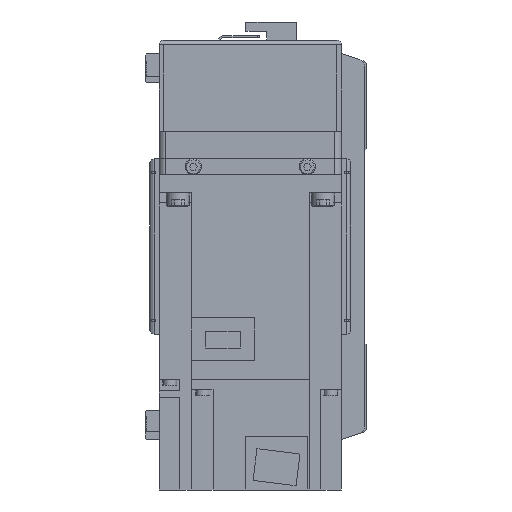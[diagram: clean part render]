
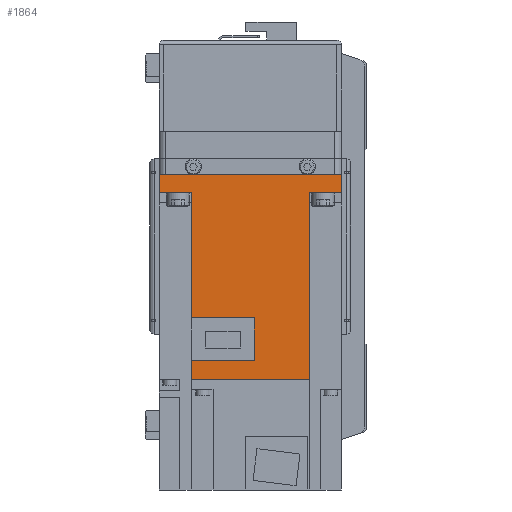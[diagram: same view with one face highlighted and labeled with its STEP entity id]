
A CAD part, left-side view. The second image highlights one B-rep face of the part: STEP entity #1864.
In plain terms, the highlighted planar face has unit normal (-1, 0, 0) as drawn and (1, 0, 0) by its records, which use the part's own axes.
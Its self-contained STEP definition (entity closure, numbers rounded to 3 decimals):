
#1864 = ADVANCED_FACE( '', ( #4446 ), #4447, .F. );
#4446 = FACE_OUTER_BOUND( '', #7940, .T. );
#4447 = PLANE( '', #7941 );
#7940 = EDGE_LOOP( '', ( #13272, #13273, #13274, #13275, #13276, #13277, #13278, #13279, #13280, #13281, #13282, #13283 ) );
#7941 = AXIS2_PLACEMENT_3D( '', #13284, #13285, #13286 );
#13272 = ORIENTED_EDGE( '', *, *, #19906, .F. );
#13273 = ORIENTED_EDGE( '', *, *, #20722, .F. );
#13274 = ORIENTED_EDGE( '', *, *, #21131, .F. );
#13275 = ORIENTED_EDGE( '', *, *, #21433, .T. );
#13276 = ORIENTED_EDGE( '', *, *, #20825, .F. );
#13277 = ORIENTED_EDGE( '', *, *, #21434, .T. );
#13278 = ORIENTED_EDGE( '', *, *, #21219, .T. );
#13279 = ORIENTED_EDGE( '', *, *, #21435, .F. );
#13280 = ORIENTED_EDGE( '', *, *, #21436, .F. );
#13281 = ORIENTED_EDGE( '', *, *, #20724, .F. );
#13282 = ORIENTED_EDGE( '', *, *, #21437, .F. );
#13283 = ORIENTED_EDGE( '', *, *, #21438, .F. );
#13284 = CARTESIAN_POINT( '', ( 40., 89.8, 40. ) );
#13285 = DIRECTION( '', ( -1., 0., 0. ) );
#13286 = DIRECTION( '', ( 0., 0., 1. ) );
#19906 = EDGE_CURVE( '', #23681, #23683, #23684, .T. );
#20722 = EDGE_CURVE( '', #25118, #23681, #25120, .T. );
#20724 = EDGE_CURVE( '', #25121, #25123, #25124, .T. );
#20825 = EDGE_CURVE( '', #25290, #25292, #25293, .T. );
#21131 = EDGE_CURVE( '', #25783, #25118, #25785, .T. );
#21219 = EDGE_CURVE( '', #25923, #25921, #25924, .T. );
#21433 = EDGE_CURVE( '', #25783, #25292, #26256, .T. );
#21434 = EDGE_CURVE( '', #25290, #25923, #26257, .T. );
#21435 = EDGE_CURVE( '', #26258, #25921, #26259, .T. );
#21436 = EDGE_CURVE( '', #25123, #26258, #26260, .T. );
#21437 = EDGE_CURVE( '', #26261, #25121, #26262, .T. );
#21438 = EDGE_CURVE( '', #23683, #26261, #26263, .T. );
#23681 = VERTEX_POINT( '', #29318 );
#23683 = VERTEX_POINT( '', #29321 );
#23684 = LINE( '', #29322, #29323 );
#25118 = VERTEX_POINT( '', #31419 );
#25120 = LINE( '', #31422, #31423 );
#25121 = VERTEX_POINT( '', #31424 );
#25123 = VERTEX_POINT( '', #31427 );
#25124 = LINE( '', #31428, #31429 );
#25290 = VERTEX_POINT( '', #31644 );
#25292 = VERTEX_POINT( '', #31647 );
#25293 = LINE( '', #31648, #31649 );
#25783 = VERTEX_POINT( '', #32396 );
#25785 = LINE( '', #32399, #32400 );
#25921 = VERTEX_POINT( '', #32611 );
#25923 = VERTEX_POINT( '', #32614 );
#25924 = LINE( '', #32615, #32616 );
#26256 = LINE( '', #33105, #33106 );
#26257 = LINE( '', #33107, #33108 );
#26258 = VERTEX_POINT( '', #33109 );
#26259 = LINE( '', #33110, #33111 );
#26260 = LINE( '', #33112, #33113 );
#26261 = VERTEX_POINT( '', #33114 );
#26262 = LINE( '', #33115, #33116 );
#26263 = LINE( '', #33117, #33118 );
#29318 = CARTESIAN_POINT( '', ( 40., 81.4, -25.95 ) );
#29321 = CARTESIAN_POINT( '', ( 40., 81.4, 1.8 ) );
#29322 = CARTESIAN_POINT( '', ( 40., 81.4, -26. ) );
#29323 = VECTOR( '', #37165, 1000. );
#31419 = CARTESIAN_POINT( '', ( 40., 89.8, -25.95 ) );
#31422 = CARTESIAN_POINT( '', ( 40., 158., -25.95 ) );
#31423 = VECTOR( '', #38290, 1000. );
#31424 = CARTESIAN_POINT( '', ( 40., 62.8, -25.95 ) );
#31427 = CARTESIAN_POINT( '', ( 40., 8., -25.95 ) );
#31428 = CARTESIAN_POINT( '', ( 40., 158., -25.95 ) );
#31429 = VECTOR( '', #38292, 1000. );
#31644 = CARTESIAN_POINT( '', ( 40., 8., 40. ) );
#31647 = CARTESIAN_POINT( '', ( 40., 8., 25.95 ) );
#31648 = CARTESIAN_POINT( '', ( 40., 8., 40. ) );
#31649 = VECTOR( '', #38439, 1000. );
#32396 = CARTESIAN_POINT( '', ( 40., 89.8, 25.95 ) );
#32399 = CARTESIAN_POINT( '', ( 40., 89.8, 40. ) );
#32400 = VECTOR( '', #38824, 1000. );
#32611 = CARTESIAN_POINT( '', ( 40., 0., -40. ) );
#32614 = CARTESIAN_POINT( '', ( 40., 0., 40. ) );
#32615 = CARTESIAN_POINT( '', ( 40., 0., 40. ) );
#32616 = VECTOR( '', #38949, 1000. );
#33105 = CARTESIAN_POINT( '', ( 40., 158., 25.95 ) );
#33106 = VECTOR( '', #39197, 1000. );
#33107 = CARTESIAN_POINT( '', ( 40., 89.8, 40. ) );
#33108 = VECTOR( '', #39198, 1000. );
#33109 = CARTESIAN_POINT( '', ( 40., 8., -40. ) );
#33110 = CARTESIAN_POINT( '', ( 40., 89.8, -40. ) );
#33111 = VECTOR( '', #39199, 1000. );
#33112 = CARTESIAN_POINT( '', ( 40., 8., 40. ) );
#33113 = VECTOR( '', #39200, 1000. );
#33114 = CARTESIAN_POINT( '', ( 40., 62.8, 1.8 ) );
#33115 = CARTESIAN_POINT( '', ( 40., 62.8, 1.8 ) );
#33116 = VECTOR( '', #39201, 1000. );
#33117 = CARTESIAN_POINT( '', ( 40., 81.4, 1.8 ) );
#33118 = VECTOR( '', #39202, 1000. );
#37165 = DIRECTION( '', ( 0., 0., 1. ) );
#38290 = DIRECTION( '', ( 0., -1., 0. ) );
#38292 = DIRECTION( '', ( 0., -1., 0. ) );
#38439 = DIRECTION( '', ( 0., 0., -1. ) );
#38824 = DIRECTION( '', ( 0., 0., -1. ) );
#38949 = DIRECTION( '', ( 0., 0., -1. ) );
#39197 = DIRECTION( '', ( 0., -1., 0. ) );
#39198 = DIRECTION( '', ( 0., -1., 0. ) );
#39199 = DIRECTION( '', ( 0., -1., 0. ) );
#39200 = DIRECTION( '', ( 0., 0., -1. ) );
#39201 = DIRECTION( '', ( 0., 0., -1. ) );
#39202 = DIRECTION( '', ( 0., -1., 0. ) );
